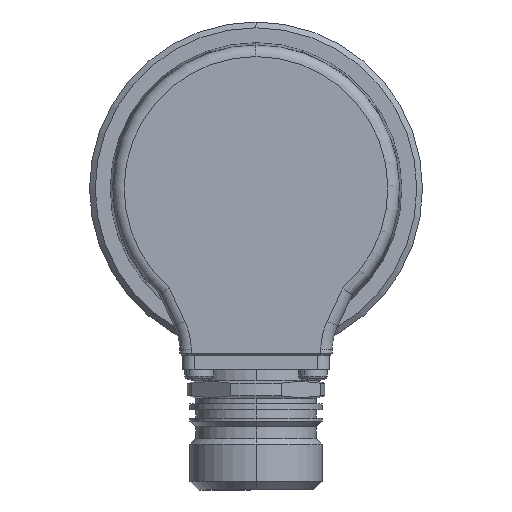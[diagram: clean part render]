
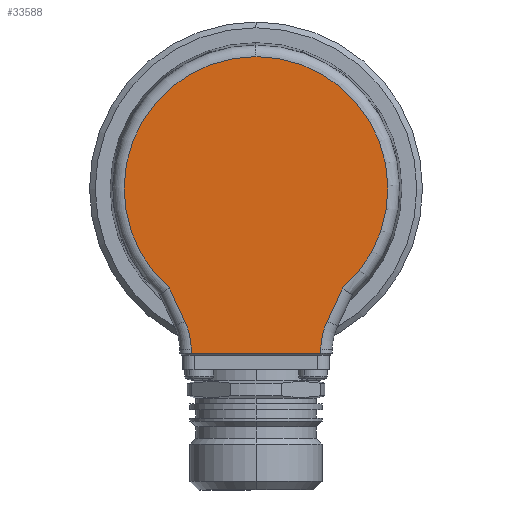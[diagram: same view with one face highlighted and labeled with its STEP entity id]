
A CAD part, left-side view. The second image highlights one B-rep face of the part: STEP entity #33588.
In plain terms, the highlighted planar face has unit normal (-1, 0, 0).
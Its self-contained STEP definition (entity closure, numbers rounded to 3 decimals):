
#24079 = CARTESIAN_POINT ( 'NONE',  ( -21., 15.091, -17.32 ) ) ;
#24080 = CARTESIAN_POINT ( 'NONE',  ( -21., 0., 22.972 ) ) ;
#24081 = DIRECTION ( 'NONE',  ( 0., 0., 1. ) ) ;
#24082 = DIRECTION ( 'NONE',  ( -1., 0., 0. ) ) ;
#24083 = CARTESIAN_POINT ( 'NONE',  ( -21., 0., 0. ) ) ;
#24084 = AXIS2_PLACEMENT_3D ( 'NONE', #24083, #24082, #24081 ) ;
#24085 = CIRCLE ( 'NONE', #24084, 22.972 ) ;
#26303 = CIRCLE ( 'NONE', #26578, 12. ) ;
#26321 = DIRECTION ( 'NONE',  ( 0., 0., 1. ) ) ;
#26322 = DIRECTION ( 'NONE',  ( 1., 0., 0. ) ) ;
#26323 = CARTESIAN_POINT ( 'NONE',  ( -21., 0., 0. ) ) ;
#26324 = AXIS2_PLACEMENT_3D ( 'NONE', #26323, #26322, #26321 ) ;
#26325 = PLANE ( 'NONE',  #26324 ) ;
#26340 = FACE_OUTER_BOUND ( 'NONE', #33590, .T. ) ;
#26450 = CARTESIAN_POINT ( 'NONE',  ( -21., 12.39, -23.112 ) ) ;
#26451 = DIRECTION ( 'NONE',  ( 0., -0.423, -0.906 ) ) ;
#26452 = VECTOR ( 'NONE', #26451, 1000. ) ;
#26453 = CARTESIAN_POINT ( 'NONE',  ( -21., 12.39, -23.112 ) ) ;
#26454 = LINE ( 'NONE', #26453, #26452 ) ;
#26477 = DIRECTION ( 'NONE',  ( 0., 0., 1. ) ) ;
#26478 = DIRECTION ( 'NONE',  ( 1., 0., 0. ) ) ;
#26479 = CARTESIAN_POINT ( 'NONE',  ( -21., 23.266, -28.183 ) ) ;
#26480 = AXIS2_PLACEMENT_3D ( 'NONE', #26479, #26478, #26477 ) ;
#26484 = CIRCLE ( 'NONE', #26480, 12. ) ;
#26485 = CARTESIAN_POINT ( 'NONE',  ( -21., -11.268, -27.974 ) ) ;
#26486 = DIRECTION ( 'NONE',  ( 0., -0.017, 1. ) ) ;
#26487 = VECTOR ( 'NONE', #26486, 1000. ) ;
#26488 = CARTESIAN_POINT ( 'NONE',  ( -21., -11.752, -0.205 ) ) ;
#26489 = LINE ( 'NONE', #26488, #26487 ) ;
#26490 = CARTESIAN_POINT ( 'NONE',  ( -21., -11.255, -28.695 ) ) ;
#26495 = DIRECTION ( 'NONE',  ( 0., -1., 0. ) ) ;
#26496 = VECTOR ( 'NONE', #26495, 1000. ) ;
#26497 = CARTESIAN_POINT ( 'NONE',  ( -21., -11.25, -28.695 ) ) ;
#26498 = LINE ( 'NONE', #26497, #26496 ) ;
#26500 = CARTESIAN_POINT ( 'NONE',  ( -21., 11.255, -28.695 ) ) ;
#26502 = CARTESIAN_POINT ( 'NONE',  ( -21., 11.268, -27.974 ) ) ;
#26508 = DIRECTION ( 'NONE',  ( 0., -0.017, -1. ) ) ;
#26509 = VECTOR ( 'NONE', #26508, 1000. ) ;
#26510 = CARTESIAN_POINT ( 'NONE',  ( -21., 11.752, -0.205 ) ) ;
#26511 = LINE ( 'NONE', #26510, #26509 ) ;
#26574 = CARTESIAN_POINT ( 'NONE',  ( -21., -12.39, -23.112 ) ) ;
#26575 = DIRECTION ( 'NONE',  ( 0., 0., 1. ) ) ;
#26576 = DIRECTION ( 'NONE',  ( 1., 0., 0. ) ) ;
#26577 = CARTESIAN_POINT ( 'NONE',  ( -21., -23.266, -28.183 ) ) ;
#26578 = AXIS2_PLACEMENT_3D ( 'NONE', #26577, #26576, #26575 ) ;
#26640 = CARTESIAN_POINT ( 'NONE',  ( -21., -15.091, -17.32 ) ) ;
#26641 = DIRECTION ( 'NONE',  ( 0., -0.423, 0.906 ) ) ;
#26642 = VECTOR ( 'NONE', #26641, 1000. ) ;
#26643 = CARTESIAN_POINT ( 'NONE',  ( -21., -14.953, -17.615 ) ) ;
#26649 = LINE ( 'NONE', #26643, #26642 ) ;
#26690 = DIRECTION ( 'NONE',  ( 0., 0., 1. ) ) ;
#26691 = DIRECTION ( 'NONE',  ( -1., 0., 0. ) ) ;
#26692 = CARTESIAN_POINT ( 'NONE',  ( -21., 0., 0. ) ) ;
#26693 = AXIS2_PLACEMENT_3D ( 'NONE', #26692, #26691, #26690 ) ;
#26694 = CIRCLE ( 'NONE', #26693, 22.972 ) ;
#32920 = EDGE_CURVE ( 'NONE', #32921, #32922, #24085, .T. ) ;
#32921 = VERTEX_POINT ( 'NONE', #24080 ) ;
#32922 = VERTEX_POINT ( 'NONE', #24079 ) ;
#33588 = ADVANCED_FACE ( 'NONE', ( #26340 ), #26325, .F. ) ;
#33590 = EDGE_LOOP ( 'NONE', ( #33619, #33627, #33633, #33639, #33644, #33680, #33685, #33687, #33609 ) ) ;
#33605 = EDGE_CURVE ( 'NONE', #32922, #33606, #26454, .T. ) ;
#33606 = VERTEX_POINT ( 'NONE', #26450 ) ;
#33609 = ORIENTED_EDGE ( 'NONE', *, *, #33611, .T. ) ;
#33611 = EDGE_CURVE ( 'NONE', #33606, #33623, #26484, .T. ) ;
#33619 = ORIENTED_EDGE ( 'NONE', *, *, #33621, .T. ) ;
#33621 = EDGE_CURVE ( 'NONE', #33623, #33625, #26511, .T. ) ;
#33623 = VERTEX_POINT ( 'NONE', #26502 ) ;
#33625 = VERTEX_POINT ( 'NONE', #26500 ) ;
#33627 = ORIENTED_EDGE ( 'NONE', *, *, #33629, .T. ) ;
#33629 = EDGE_CURVE ( 'NONE', #33625, #33631, #26498, .T. ) ;
#33631 = VERTEX_POINT ( 'NONE', #26490 ) ;
#33633 = ORIENTED_EDGE ( 'NONE', *, *, #33635, .T. ) ;
#33635 = EDGE_CURVE ( 'NONE', #33631, #33636, #26489, .T. ) ;
#33636 = VERTEX_POINT ( 'NONE', #26485 ) ;
#33639 = ORIENTED_EDGE ( 'NONE', *, *, #33641, .T. ) ;
#33641 = EDGE_CURVE ( 'NONE', #33636, #33642, #26303, .T. ) ;
#33642 = VERTEX_POINT ( 'NONE', #26574 ) ;
#33644 = ORIENTED_EDGE ( 'NONE', *, *, #33677, .T. ) ;
#33677 = EDGE_CURVE ( 'NONE', #33642, #33678, #26649, .T. ) ;
#33678 = VERTEX_POINT ( 'NONE', #26640 ) ;
#33680 = ORIENTED_EDGE ( 'NONE', *, *, #33682, .T. ) ;
#33682 = EDGE_CURVE ( 'NONE', #33678, #32921, #26694, .T. ) ;
#33685 = ORIENTED_EDGE ( 'NONE', *, *, #32920, .T. ) ;
#33687 = ORIENTED_EDGE ( 'NONE', *, *, #33605, .T. ) ;
